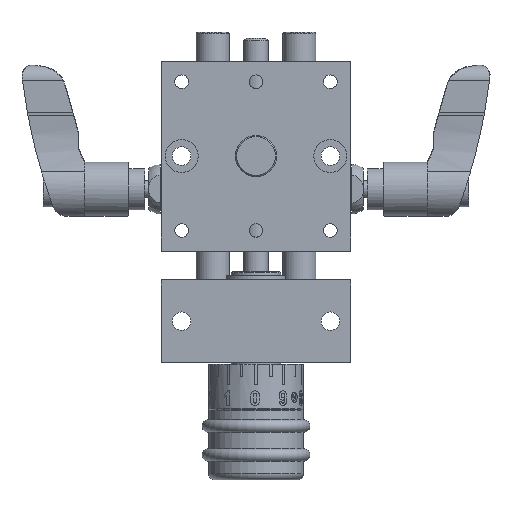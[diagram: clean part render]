
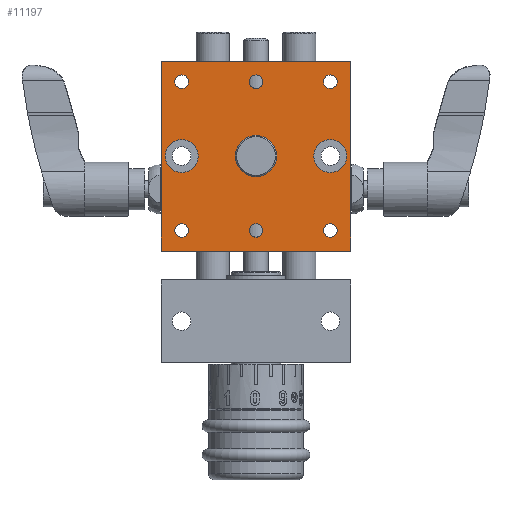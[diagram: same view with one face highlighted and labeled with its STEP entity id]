
A CAD part, front view. The second image highlights one B-rep face of the part: STEP entity #11197.
In plain terms, the highlighted planar face has unit normal (0, -1, 0) as drawn and (0, 0, -1) by its records, which use the part's own axes.
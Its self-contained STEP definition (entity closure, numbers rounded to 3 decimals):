
#70 = ORIENTED_EDGE ( 'NONE', *, *, #22669, .F. ) ;
#370 = CARTESIAN_POINT ( 'NONE',  ( 0., 0., -20. ) ) ;
#378 = EDGE_CURVE ( 'NONE', #30524, #30524, #12380, .T. ) ;
#921 = VERTEX_POINT ( 'NONE', #27859 ) ;
#1028 = AXIS2_PLACEMENT_3D ( 'NONE', #5692, #9893, #5377 ) ;
#1085 = PLANE ( 'NONE',  #31030 ) ;
#1126 = DIRECTION ( 'NONE',  ( 1., 0., 0. ) ) ;
#1460 = VERTEX_POINT ( 'NONE', #8892 ) ;
#1470 = DIRECTION ( 'NONE',  ( 1., 0., 0. ) ) ;
#1627 = DIRECTION ( 'NONE',  ( 0., 0., 1. ) ) ;
#1720 = ORIENTED_EDGE ( 'NONE', *, *, #26166, .T. ) ;
#2547 = VERTEX_POINT ( 'NONE', #29809 ) ;
#2574 = AXIS2_PLACEMENT_3D ( 'NONE', #13880, #23513, #1126 ) ;
#2739 = EDGE_CURVE ( 'NONE', #8810, #10896, #25341, .T. ) ;
#3039 = CIRCLE ( 'NONE', #9717, 1.65 ) ;
#3394 = CARTESIAN_POINT ( 'NONE',  ( 6.65, 41., -20. ) ) ;
#3725 = EDGE_CURVE ( 'NONE', #1460, #1460, #15679, .T. ) ;
#4051 = ORIENTED_EDGE ( 'NONE', *, *, #3725, .T. ) ;
#4313 = AXIS2_PLACEMENT_3D ( 'NONE', #28717, #1627, #1470 ) ;
#5139 = CIRCLE ( 'NONE', #9761, 1.65 ) ;
#5377 = DIRECTION ( 'NONE',  ( 1., 0., 0. ) ) ;
#5692 = CARTESIAN_POINT ( 'NONE',  ( 41., 41., -20. ) ) ;
#5749 = DIRECTION ( 'NONE',  ( 0., -1., 0. ) ) ;
#6158 = CARTESIAN_POINT ( 'NONE',  ( 27., 5., -20. ) ) ;
#6217 = ORIENTED_EDGE ( 'NONE', *, *, #16922, .T. ) ;
#6399 = FACE_BOUND ( 'NONE', #17183, .T. ) ;
#6474 = DIRECTION ( 'NONE',  ( 1., 0., 0. ) ) ;
#6613 = CARTESIAN_POINT ( 'NONE',  ( 28., 23., -20. ) ) ;
#6715 = VERTEX_POINT ( 'NONE', #18616 ) ;
#7230 = CARTESIAN_POINT ( 'NONE',  ( 42.65, 23., -20. ) ) ;
#7340 = CARTESIAN_POINT ( 'NONE',  ( 23., 23., -20. ) ) ;
#7341 = DIRECTION ( 'NONE',  ( 0., 0., 1. ) ) ;
#8023 = LINE ( 'NONE', #30438, #25080 ) ;
#8325 = EDGE_CURVE ( 'NONE', #10896, #6715, #10060, .T. ) ;
#8444 = DIRECTION ( 'NONE',  ( 0., 0., 1. ) ) ;
#8675 = FACE_BOUND ( 'NONE', #9753, .T. ) ;
#8810 = VERTEX_POINT ( 'NONE', #12387 ) ;
#8892 = CARTESIAN_POINT ( 'NONE',  ( 6.65, 23., -20. ) ) ;
#8906 = CARTESIAN_POINT ( 'NONE',  ( 5., 41., -20. ) ) ;
#9095 = EDGE_CURVE ( 'NONE', #23838, #23838, #31617, .T. ) ;
#9716 = ORIENTED_EDGE ( 'NONE', *, *, #28149, .T. ) ;
#9717 = AXIS2_PLACEMENT_3D ( 'NONE', #16669, #28782, #19259 ) ;
#9745 = CARTESIAN_POINT ( 'NONE',  ( 41., 23., -20. ) ) ;
#9753 = EDGE_LOOP ( 'NONE', ( #29351 ) ) ;
#9761 = AXIS2_PLACEMENT_3D ( 'NONE', #8906, #8444, #6474 ) ;
#9789 = ORIENTED_EDGE ( 'NONE', *, *, #2739, .F. ) ;
#9893 = DIRECTION ( 'NONE',  ( 0., 0., 1. ) ) ;
#10030 = ORIENTED_EDGE ( 'NONE', *, *, #9095, .T. ) ;
#10060 = LINE ( 'NONE', #29732, #26540 ) ;
#10896 = VERTEX_POINT ( 'NONE', #27691 ) ;
#11102 = FACE_BOUND ( 'NONE', #19301, .T. ) ;
#11197 = ADVANCED_FACE ( 'NONE', ( #11102, #23478, #15783, #28333, #21053, #11251, #8675, #6399, #18497, #13060 ), #1085, .T. ) ;
#11251 = FACE_BOUND ( 'NONE', #12093, .T. ) ;
#11261 = EDGE_LOOP ( 'NONE', ( #4051 ) ) ;
#11459 = EDGE_LOOP ( 'NONE', ( #9716 ) ) ;
#11912 = DIRECTION ( 'NONE',  ( -1., 0., 0. ) ) ;
#12093 = EDGE_LOOP ( 'NONE', ( #1720 ) ) ;
#12380 = CIRCLE ( 'NONE', #2574, 4. ) ;
#12387 = CARTESIAN_POINT ( 'NONE',  ( 0., 0., -20. ) ) ;
#12388 = CARTESIAN_POINT ( 'NONE',  ( 23., 41., -20. ) ) ;
#12508 = EDGE_LOOP ( 'NONE', ( #29098 ) ) ;
#13060 = FACE_OUTER_BOUND ( 'NONE', #25412, .T. ) ;
#13130 = DIRECTION ( 'NONE',  ( 1., 0., 0. ) ) ;
#13673 = DIRECTION ( 'NONE',  ( 0., 0., 1. ) ) ;
#13709 = LINE ( 'NONE', #23959, #25145 ) ;
#13737 = VECTOR ( 'NONE', #13130, 1000. ) ;
#13880 = CARTESIAN_POINT ( 'NONE',  ( 23., 5., -20. ) ) ;
#14442 = ORIENTED_EDGE ( 'NONE', *, *, #16541, .T. ) ;
#14946 = CIRCLE ( 'NONE', #1028, 1.65 ) ;
#15129 = DIRECTION ( 'NONE',  ( -1., 0., 0. ) ) ;
#15303 = CARTESIAN_POINT ( 'NONE',  ( 19., 41., -20. ) ) ;
#15394 = CIRCLE ( 'NONE', #23574, 1.65 ) ;
#15679 = CIRCLE ( 'NONE', #4313, 1.65 ) ;
#15783 = FACE_BOUND ( 'NONE', #11261, .T. ) ;
#15809 = CARTESIAN_POINT ( 'NONE',  ( 42.65, 41., -20. ) ) ;
#16226 = DIRECTION ( 'NONE',  ( -1., 0., 0. ) ) ;
#16541 = EDGE_CURVE ( 'NONE', #25457, #25457, #5139, .T. ) ;
#16669 = CARTESIAN_POINT ( 'NONE',  ( 41., 5., -20. ) ) ;
#16922 = EDGE_CURVE ( 'NONE', #20926, #20926, #14946, .T. ) ;
#17183 = EDGE_LOOP ( 'NONE', ( #29259 ) ) ;
#17374 = VERTEX_POINT ( 'NONE', #15303 ) ;
#18497 = FACE_BOUND ( 'NONE', #30422, .T. ) ;
#18616 = CARTESIAN_POINT ( 'NONE',  ( 46., 46., -20. ) ) ;
#18649 = CARTESIAN_POINT ( 'NONE',  ( 0., 46., -20. ) ) ;
#19259 = DIRECTION ( 'NONE',  ( 1., 0., 0. ) ) ;
#19301 = EDGE_LOOP ( 'NONE', ( #14442 ) ) ;
#19573 = DIRECTION ( 'NONE',  ( 0., 0., 1. ) ) ;
#20091 = DIRECTION ( 'NONE',  ( 0., 0., -1. ) ) ;
#20924 = ORIENTED_EDGE ( 'NONE', *, *, #8325, .F. ) ;
#20926 = VERTEX_POINT ( 'NONE', #15809 ) ;
#21053 = FACE_BOUND ( 'NONE', #12508, .T. ) ;
#21187 = DIRECTION ( 'NONE',  ( 1., 0., 0. ) ) ;
#22669 = EDGE_CURVE ( 'NONE', #28823, #8810, #8023, .T. ) ;
#23478 = FACE_BOUND ( 'NONE', #28051, .T. ) ;
#23513 = DIRECTION ( 'NONE',  ( 0., 0., -1. ) ) ;
#23574 = AXIS2_PLACEMENT_3D ( 'NONE', #9745, #7341, #29595 ) ;
#23838 = VERTEX_POINT ( 'NONE', #6613 ) ;
#23959 = CARTESIAN_POINT ( 'NONE',  ( 0., 46., -20. ) ) ;
#25080 = VECTOR ( 'NONE', #5749, 1000. ) ;
#25145 = VECTOR ( 'NONE', #11912, 1000. ) ;
#25202 = CIRCLE ( 'NONE', #29336, 4. ) ;
#25341 = LINE ( 'NONE', #370, #13737 ) ;
#25412 = EDGE_LOOP ( 'NONE', ( #70, #30538, #20924, #9789 ) ) ;
#25457 = VERTEX_POINT ( 'NONE', #3394 ) ;
#25669 = CIRCLE ( 'NONE', #27198, 1.65 ) ;
#26166 = EDGE_CURVE ( 'NONE', #2547, #2547, #3039, .T. ) ;
#26540 = VECTOR ( 'NONE', #29404, 1000. ) ;
#26822 = DIRECTION ( 'NONE',  ( 1., 0., 0. ) ) ;
#27198 = AXIS2_PLACEMENT_3D ( 'NONE', #28473, #13673, #21187 ) ;
#27691 = CARTESIAN_POINT ( 'NONE',  ( 46., 0., -20. ) ) ;
#27746 = EDGE_CURVE ( 'NONE', #17374, #17374, #25202, .T. ) ;
#27859 = CARTESIAN_POINT ( 'NONE',  ( 6.65, 5., -20. ) ) ;
#28051 = EDGE_LOOP ( 'NONE', ( #6217 ) ) ;
#28149 = EDGE_CURVE ( 'NONE', #29319, #29319, #15394, .T. ) ;
#28333 = FACE_BOUND ( 'NONE', #11459, .T. ) ;
#28473 = CARTESIAN_POINT ( 'NONE',  ( 5., 5., -20. ) ) ;
#28717 = CARTESIAN_POINT ( 'NONE',  ( 5., 23., -20. ) ) ;
#28782 = DIRECTION ( 'NONE',  ( 0., 0., 1. ) ) ;
#28823 = VERTEX_POINT ( 'NONE', #28831 ) ;
#28824 = EDGE_CURVE ( 'NONE', #6715, #28823, #13709, .T. ) ;
#28831 = CARTESIAN_POINT ( 'NONE',  ( 0., 46., -20. ) ) ;
#29059 = AXIS2_PLACEMENT_3D ( 'NONE', #7340, #19573, #26822 ) ;
#29098 = ORIENTED_EDGE ( 'NONE', *, *, #29622, .T. ) ;
#29259 = ORIENTED_EDGE ( 'NONE', *, *, #27746, .F. ) ;
#29319 = VERTEX_POINT ( 'NONE', #7230 ) ;
#29336 = AXIS2_PLACEMENT_3D ( 'NONE', #12388, #20091, #15129 ) ;
#29351 = ORIENTED_EDGE ( 'NONE', *, *, #378, .F. ) ;
#29404 = DIRECTION ( 'NONE',  ( 0., 1., 0. ) ) ;
#29595 = DIRECTION ( 'NONE',  ( 1., 0., 0. ) ) ;
#29622 = EDGE_CURVE ( 'NONE', #921, #921, #25669, .T. ) ;
#29732 = CARTESIAN_POINT ( 'NONE',  ( 46., 0., -20. ) ) ;
#29809 = CARTESIAN_POINT ( 'NONE',  ( 42.65, 5., -20. ) ) ;
#30422 = EDGE_LOOP ( 'NONE', ( #10030 ) ) ;
#30438 = CARTESIAN_POINT ( 'NONE',  ( 0., 0., -20. ) ) ;
#30524 = VERTEX_POINT ( 'NONE', #6158 ) ;
#30538 = ORIENTED_EDGE ( 'NONE', *, *, #28824, .F. ) ;
#30620 = DIRECTION ( 'NONE',  ( 0., 0., -1. ) ) ;
#31030 = AXIS2_PLACEMENT_3D ( 'NONE', #18649, #30620, #16226 ) ;
#31617 = CIRCLE ( 'NONE', #29059, 5. ) ;
